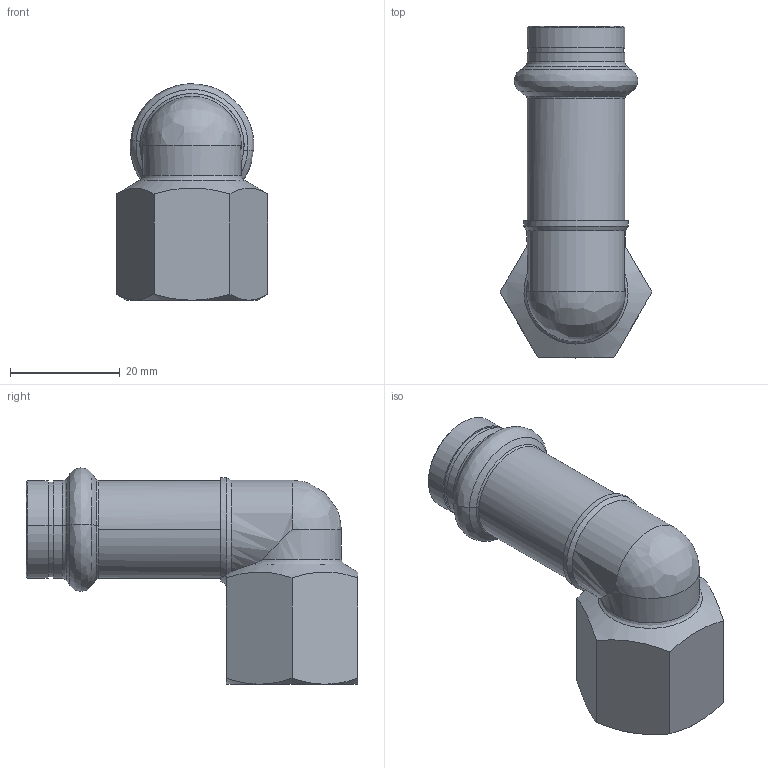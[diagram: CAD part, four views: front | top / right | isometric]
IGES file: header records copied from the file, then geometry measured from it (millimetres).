
Start section: Elysium IGES Interface
Global section: file name: F:\3d modellen sudo\S-Pr VP\SP6090GV\6090GVW1512.igs; native system: CoCreate Modeling 17.00A  17-Jun-2010; preprocessor: CoCreate IGES_3D V2.2; author: Unknown; organization: Unknown; date: 20130128.094909; units: millimetre
Bounding box: 27.71 x 60.5 x 39.48 mm (x, y, z)
Volume: 10664.1 mm3; surface area: 9162.5 mm2
Topology: 1 solids, 1 shells, 76 faces, 171 edges, 100 vertices
Faces by surface type: bspline 76
